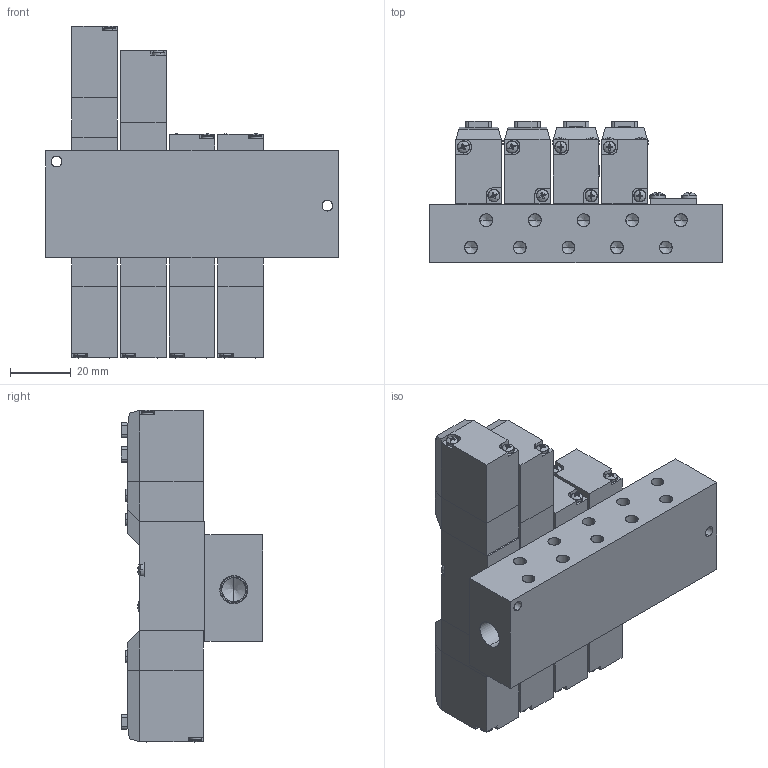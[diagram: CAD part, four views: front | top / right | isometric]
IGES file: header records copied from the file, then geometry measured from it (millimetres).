
Start section: SolidWorks IGES file using analytic representation for surfaces
Global section: file name: D:\Custom\3D繪製\PC\PC5\MFS#-PI5-M5-L.IGS, ; native system: SolidWorks 2014; preprocessor: SolidWorks 2014; author: Chieh_Lu; date: 150729.231533; units: millimetre
Bounding box: 96 x 46.5 x 109.14 mm (x, y, z)
Surface area: 64504.7 mm2 (no closed solid volume)
Topology: 0 solids, 0 shells, 2051 faces, 18422 edges, 18330 vertices
Faces by surface type: bspline 1275, revolution 776
